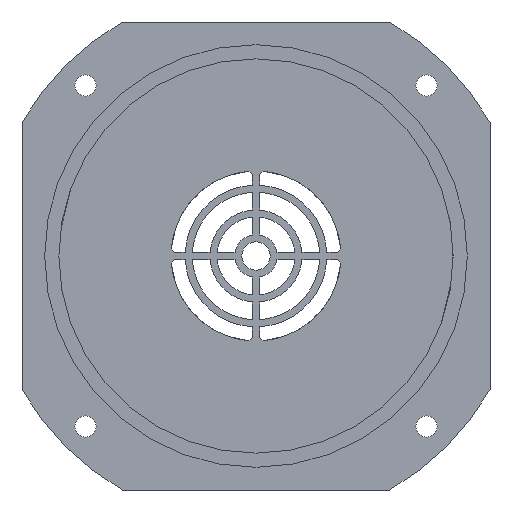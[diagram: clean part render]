
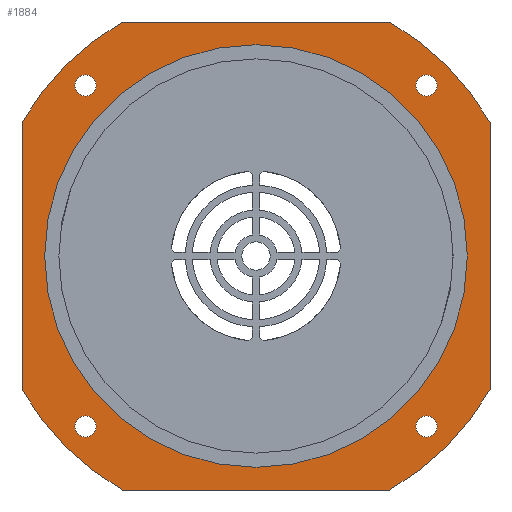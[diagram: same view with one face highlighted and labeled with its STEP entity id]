
A CAD part, front view. The second image highlights one B-rep face of the part: STEP entity #1884.
In plain terms, the highlighted planar face has unit normal (0, -1, 0).
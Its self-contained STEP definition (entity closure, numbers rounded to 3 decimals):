
#43=FACE_BOUND('',#681,.T.);
#44=FACE_BOUND('',#682,.T.);
#45=FACE_BOUND('',#683,.T.);
#46=FACE_BOUND('',#684,.T.);
#47=FACE_BOUND('',#685,.T.);
#101=PLANE('',#2091);
#250=LINE('',#3171,#414);
#255=LINE('',#3185,#419);
#259=LINE('',#3197,#423);
#263=LINE('',#3209,#427);
#414=VECTOR('',#2594,10.);
#419=VECTOR('',#2607,10.);
#423=VECTOR('',#2619,10.);
#427=VECTOR('',#2631,10.);
#559=FACE_OUTER_BOUND('',#680,.T.);
#680=EDGE_LOOP('',(#1773,#1774,#1775,#1776,#1777,#1778,#1779,#1780));
#681=EDGE_LOOP('',(#1781));
#682=EDGE_LOOP('',(#1782));
#683=EDGE_LOOP('',(#1783));
#684=EDGE_LOOP('',(#1784));
#685=EDGE_LOOP('',(#1785));
#699=CIRCLE('',#1924,1.5);
#703=CIRCLE('',#1930,1.5);
#707=CIRCLE('',#1936,1.5);
#711=CIRCLE('',#1942,1.5);
#766=CIRCLE('',#2054,29.8);
#778=CIRCLE('',#2076,38.);
#780=CIRCLE('',#2080,38.);
#782=CIRCLE('',#2084,38.);
#784=CIRCLE('',#2088,38.);
#812=VERTEX_POINT('',#2723);
#817=VERTEX_POINT('',#2742);
#822=VERTEX_POINT('',#2761);
#827=VERTEX_POINT('',#2780);
#946=VERTEX_POINT('',#3134);
#954=VERTEX_POINT('',#3169);
#955=VERTEX_POINT('',#3170);
#958=VERTEX_POINT('',#3178);
#960=VERTEX_POINT('',#3184);
#962=VERTEX_POINT('',#3190);
#964=VERTEX_POINT('',#3196);
#966=VERTEX_POINT('',#3202);
#968=VERTEX_POINT('',#3208);
#1002=EDGE_CURVE('',#812,#812,#699,.T.);
#1009=EDGE_CURVE('',#817,#817,#703,.T.);
#1016=EDGE_CURVE('',#822,#822,#707,.T.);
#1023=EDGE_CURVE('',#827,#827,#711,.T.);
#1201=EDGE_CURVE('',#946,#946,#766,.T.);
#1218=EDGE_CURVE('',#954,#955,#250,.T.);
#1222=EDGE_CURVE('',#958,#955,#778,.T.);
#1225=EDGE_CURVE('',#958,#960,#255,.T.);
#1228=EDGE_CURVE('',#962,#960,#780,.T.);
#1231=EDGE_CURVE('',#962,#964,#259,.T.);
#1234=EDGE_CURVE('',#966,#964,#782,.T.);
#1237=EDGE_CURVE('',#966,#968,#263,.T.);
#1240=EDGE_CURVE('',#954,#968,#784,.T.);
#1773=ORIENTED_EDGE('',*,*,#1240,.F.);
#1774=ORIENTED_EDGE('',*,*,#1218,.T.);
#1775=ORIENTED_EDGE('',*,*,#1222,.F.);
#1776=ORIENTED_EDGE('',*,*,#1225,.T.);
#1777=ORIENTED_EDGE('',*,*,#1228,.F.);
#1778=ORIENTED_EDGE('',*,*,#1231,.T.);
#1779=ORIENTED_EDGE('',*,*,#1234,.F.);
#1780=ORIENTED_EDGE('',*,*,#1237,.T.);
#1781=ORIENTED_EDGE('',*,*,#1201,.F.);
#1782=ORIENTED_EDGE('',*,*,#1002,.F.);
#1783=ORIENTED_EDGE('',*,*,#1023,.F.);
#1784=ORIENTED_EDGE('',*,*,#1016,.F.);
#1785=ORIENTED_EDGE('',*,*,#1009,.F.);
#1884=ADVANCED_FACE('',(#559,#43,#44,#45,#46,#47),#101,.F.);
#1924=AXIS2_PLACEMENT_3D('',#2725,#2158,#2159);
#1930=AXIS2_PLACEMENT_3D('',#2744,#2172,#2173);
#1936=AXIS2_PLACEMENT_3D('',#2763,#2186,#2187);
#1942=AXIS2_PLACEMENT_3D('',#2782,#2200,#2201);
#2054=AXIS2_PLACEMENT_3D('',#3136,#2547,#2548);
#2076=AXIS2_PLACEMENT_3D('',#3179,#2600,#2601);
#2080=AXIS2_PLACEMENT_3D('',#3191,#2612,#2613);
#2084=AXIS2_PLACEMENT_3D('',#3203,#2624,#2625);
#2088=AXIS2_PLACEMENT_3D('',#3214,#2636,#2637);
#2091=AXIS2_PLACEMENT_3D('',#3217,#2642,#2643);
#2158=DIRECTION('center_axis',(0.,-1.,0.));
#2159=DIRECTION('ref_axis',(1.,0.,0.));
#2172=DIRECTION('center_axis',(0.,-1.,0.));
#2173=DIRECTION('ref_axis',(1.,0.,0.));
#2186=DIRECTION('center_axis',(0.,-1.,0.));
#2187=DIRECTION('ref_axis',(1.,0.,0.));
#2200=DIRECTION('center_axis',(0.,-1.,0.));
#2201=DIRECTION('ref_axis',(1.,0.,0.));
#2547=DIRECTION('center_axis',(0.,-1.,0.));
#2548=DIRECTION('ref_axis',(1.,0.,0.));
#2594=DIRECTION('',(1.,0.,0.));
#2600=DIRECTION('center_axis',(0.,1.,0.));
#2601=DIRECTION('ref_axis',(1.,0.,0.));
#2607=DIRECTION('',(0.,0.,1.));
#2612=DIRECTION('center_axis',(0.,1.,0.));
#2613=DIRECTION('ref_axis',(1.,0.,0.));
#2619=DIRECTION('',(-1.,0.,0.));
#2624=DIRECTION('center_axis',(0.,1.,0.));
#2625=DIRECTION('ref_axis',(1.,0.,0.));
#2631=DIRECTION('',(0.,0.,-1.));
#2636=DIRECTION('center_axis',(0.,1.,0.));
#2637=DIRECTION('ref_axis',(1.,0.,0.));
#2642=DIRECTION('center_axis',(0.,1.,0.));
#2643=DIRECTION('ref_axis',(1.,0.,0.));
#2723=CARTESIAN_POINT('',(22.542,0.,-24.042));
#2725=CARTESIAN_POINT('Origin',(24.042,0.,-24.042));
#2742=CARTESIAN_POINT('',(22.542,0.,24.042));
#2744=CARTESIAN_POINT('Origin',(24.042,0.,24.042));
#2761=CARTESIAN_POINT('',(-25.542,0.,24.042));
#2763=CARTESIAN_POINT('Origin',(-24.042,0.,24.042));
#2780=CARTESIAN_POINT('',(-25.542,0.,-24.042));
#2782=CARTESIAN_POINT('Origin',(-24.042,0.,-24.042));
#3134=CARTESIAN_POINT('',(-29.8,0.,0.));
#3136=CARTESIAN_POINT('Origin',(0.,0.,0.));
#3169=CARTESIAN_POINT('',(-18.841,0.,-33.));
#3170=CARTESIAN_POINT('',(18.841,0.,-33.));
#3171=CARTESIAN_POINT('',(-33.,0.,-33.));
#3178=CARTESIAN_POINT('',(33.,0.,-18.841));
#3179=CARTESIAN_POINT('Origin',(0.,0.,0.));
#3184=CARTESIAN_POINT('',(33.,0.,18.841));
#3185=CARTESIAN_POINT('',(33.,0.,-33.));
#3190=CARTESIAN_POINT('',(18.841,0.,33.));
#3191=CARTESIAN_POINT('Origin',(0.,0.,0.));
#3196=CARTESIAN_POINT('',(-18.841,0.,33.));
#3197=CARTESIAN_POINT('',(33.,0.,33.));
#3202=CARTESIAN_POINT('',(-33.,0.,18.841));
#3203=CARTESIAN_POINT('Origin',(0.,0.,0.));
#3208=CARTESIAN_POINT('',(-33.,0.,-18.841));
#3209=CARTESIAN_POINT('',(-33.,0.,33.));
#3214=CARTESIAN_POINT('Origin',(0.,0.,0.));
#3217=CARTESIAN_POINT('Origin',(0.,0.,0.));
